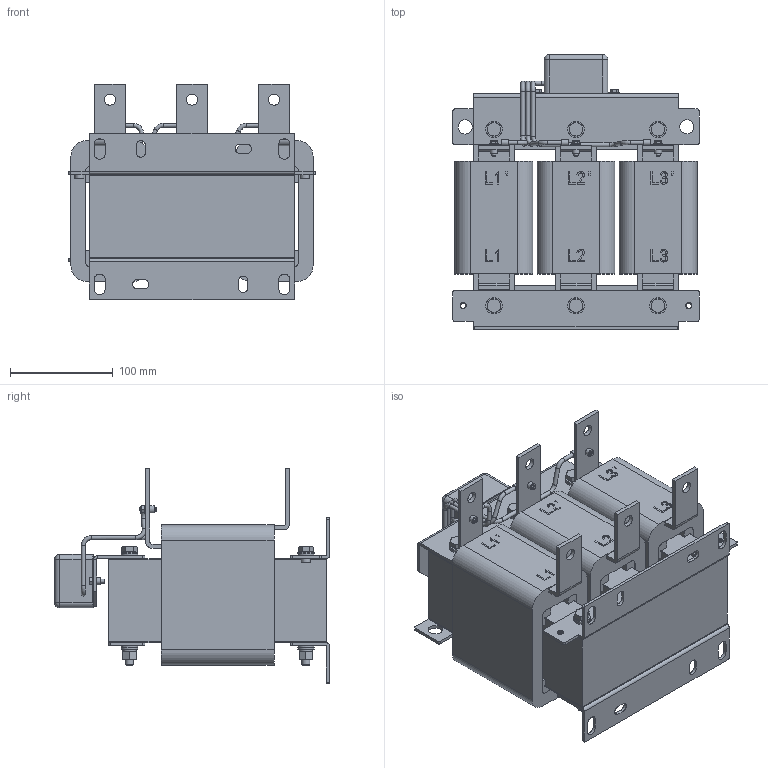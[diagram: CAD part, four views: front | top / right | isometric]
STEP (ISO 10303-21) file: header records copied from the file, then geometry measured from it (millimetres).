
FILE_DESCRIPTION(('STEP AP203'), '1');
FILE_NAME('IDUDT-90_240-4 _ dU_dt ôèëüòð 90 êÂò', '', ('UNSPECIFIED'), ('UNSPECIFIED'), 'C3D Converter', 'C3D Toolkit', '');
FILE_SCHEMA(('CONFIG_CONTROL_DESIGN'));
Length unit declared in the file: millimetre
Products named in the file (20): IDUDT-90/240-4
Assembly tree (59 placements, depth 3):
  IDUDT-90/240-4
    (unnamed)
    (unnamed)  x6
    (unnamed)
    (unnamed)
    (unnamed)
    (unnamed)  x12
    (unnamed)  x6
    (unnamed)  x6
      (unnamed)
      (unnamed)
      (unnamed)
    (unnamed)  x3
    (unnamed)
    (unnamed)
    (unnamed)  x5
    (unnamed)  x3
    (unnamed)  x3
    (unnamed)  x3
    (unnamed)
    (unnamed)
Bounding box: 240 x 268 x 210 mm (x, y, z)
Volume: 4937110.1 mm3; surface area: 851857.9 mm2
Topology: 89 solids, 89 shells, 1199 faces, 2760 edges, 1794 vertices
Faces by surface type: plane 743, cylinder 290, cone 122, bspline 27, torus 13, sphere 4
Full cylindrical faces by diameter (mm): 3 x8, 4 x21, 4.3 x3, 4.333 x3, 4.407 x3, 5 x2, 6.02 x3, 6.917 x6, 7 x5, 8 x9, 8.68 x6, 9 x26, 11 x36, 11.63 x6, 12.88 x6, 14 x2, 16 x24
Entity records: 39476 total; most frequent: CARTESIAN_POINT 16838, DIRECTION 3069, ORIENTED_EDGE 3052, EDGE_CURVE 1526, VERTEX_POINT 1061, AXIS2_PLACEMENT_3D 1045, LINE 979, VECTOR 979
